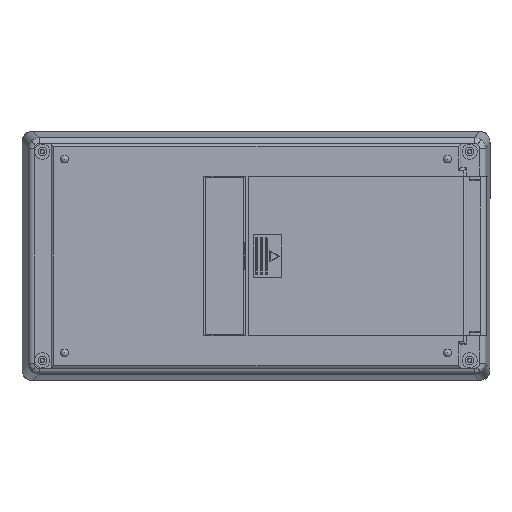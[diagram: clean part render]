
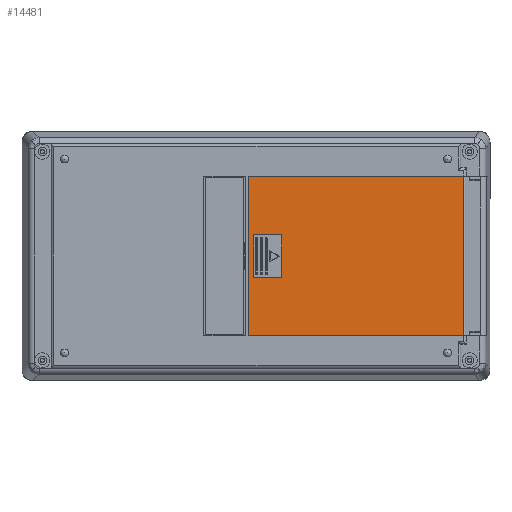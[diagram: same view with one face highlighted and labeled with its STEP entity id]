
A CAD part, front view. The second image highlights one B-rep face of the part: STEP entity #14481.
In plain terms, the highlighted planar face has unit normal (0, -1, 0).
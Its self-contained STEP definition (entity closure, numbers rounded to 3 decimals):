
#66 = LINE ( 'NONE', #12847, #12396 ) ;
#1228 = CARTESIAN_POINT ( 'NONE',  ( 25.2, 0., 32.4 ) ) ;
#2099 = CARTESIAN_POINT ( 'NONE',  ( 38.7, 0., -8.75 ) ) ;
#3200 = VERTEX_POINT ( 'NONE', #28130 ) ;
#3648 = DIRECTION ( 'NONE',  ( 0., 0., 1. ) ) ;
#4795 = ORIENTED_EDGE ( 'NONE', *, *, #11829, .F. ) ;
#5502 = CARTESIAN_POINT ( 'NONE',  ( 38.7, 0., 8.75 ) ) ;
#6868 = AXIS2_PLACEMENT_3D ( 'NONE', #24189, #8181, #24293 ) ;
#7576 = CARTESIAN_POINT ( 'NONE',  ( 112.7, 0., 32.4 ) ) ;
#8119 = VECTOR ( 'NONE', #26833, 1000. ) ;
#8181 = DIRECTION ( 'NONE',  ( 0., 1., 0. ) ) ;
#8979 = CARTESIAN_POINT ( 'NONE',  ( 38.7, 0., -8.75 ) ) ;
#9409 = CARTESIAN_POINT ( 'NONE',  ( 25.2, 0., 32.4 ) ) ;
#9796 = ORIENTED_EDGE ( 'NONE', *, *, #26571, .F. ) ;
#9850 = LINE ( 'NONE', #1228, #21337 ) ;
#11057 = EDGE_CURVE ( 'NONE', #14386, #3200, #14984, .T. ) ;
#11204 = EDGE_CURVE ( 'NONE', #22026, #15420, #22841, .T. ) ;
#11449 = EDGE_CURVE ( 'NONE', #12048, #15558, #16363, .T. ) ;
#11829 = EDGE_CURVE ( 'NONE', #27167, #14386, #66, .T. ) ;
#12048 = VERTEX_POINT ( 'NONE', #12064 ) ;
#12064 = CARTESIAN_POINT ( 'NONE',  ( 25.2, 0., 32.4 ) ) ;
#12119 = CARTESIAN_POINT ( 'NONE',  ( 112.7, 0., -32.4 ) ) ;
#12288 = CARTESIAN_POINT ( 'NONE',  ( 38.7, 0., 8.75 ) ) ;
#12396 = VECTOR ( 'NONE', #3648, 1000. ) ;
#12457 = CARTESIAN_POINT ( 'NONE',  ( 27.2, 0., -8.75 ) ) ;
#12644 = CARTESIAN_POINT ( 'NONE',  ( 25.2, 0., -32.4 ) ) ;
#12847 = CARTESIAN_POINT ( 'NONE',  ( 38.7, 0., 8.75 ) ) ;
#12991 = CARTESIAN_POINT ( 'NONE',  ( 112.7, 0., 32.4 ) ) ;
#13511 = LINE ( 'NONE', #17850, #8119 ) ;
#14386 = VERTEX_POINT ( 'NONE', #12288 ) ;
#14481 = ADVANCED_FACE ( 'NONE', ( #28857, #24881 ), #21938, .F. ) ;
#14984 = LINE ( 'NONE', #5502, #16394 ) ;
#15420 = VERTEX_POINT ( 'NONE', #12119 ) ;
#15538 = EDGE_CURVE ( 'NONE', #15558, #15420, #19019, .T. ) ;
#15558 = VERTEX_POINT ( 'NONE', #12644 ) ;
#15578 = EDGE_LOOP ( 'NONE', ( #21266, #24582, #24295, #17866 ) ) ;
#16158 = DIRECTION ( 'NONE',  ( 0., 0., -1. ) ) ;
#16363 = LINE ( 'NONE', #9409, #28648 ) ;
#16394 = VECTOR ( 'NONE', #21608, 1000. ) ;
#17038 = LINE ( 'NONE', #2099, #20952 ) ;
#17172 = CARTESIAN_POINT ( 'NONE',  ( 25.2, 0., -32.4 ) ) ;
#17850 = CARTESIAN_POINT ( 'NONE',  ( 27.2, 0., 8.75 ) ) ;
#17866 = ORIENTED_EDGE ( 'NONE', *, *, #11449, .T. ) ;
#18294 = VECTOR ( 'NONE', #21778, 1000. ) ;
#18706 = ORIENTED_EDGE ( 'NONE', *, *, #11057, .F. ) ;
#19019 = LINE ( 'NONE', #17172, #18294 ) ;
#19180 = EDGE_LOOP ( 'NONE', ( #18706, #4795, #9796, #20139 ) ) ;
#19741 = VERTEX_POINT ( 'NONE', #12457 ) ;
#20139 = ORIENTED_EDGE ( 'NONE', *, *, #25290, .F. ) ;
#20952 = VECTOR ( 'NONE', #29735, 1000. ) ;
#21266 = ORIENTED_EDGE ( 'NONE', *, *, #15538, .T. ) ;
#21337 = VECTOR ( 'NONE', #21886, 1000. ) ;
#21608 = DIRECTION ( 'NONE',  ( -1., 0., 0. ) ) ;
#21778 = DIRECTION ( 'NONE',  ( 1., 0., 0. ) ) ;
#21886 = DIRECTION ( 'NONE',  ( 1., 0., 0. ) ) ;
#21938 = PLANE ( 'NONE',  #6868 ) ;
#22026 = VERTEX_POINT ( 'NONE', #7576 ) ;
#22841 = LINE ( 'NONE', #12991, #29028 ) ;
#24189 = CARTESIAN_POINT ( 'NONE',  ( 25.2, 0., 32.4 ) ) ;
#24293 = DIRECTION ( 'NONE',  ( 0., 0., 1. ) ) ;
#24295 = ORIENTED_EDGE ( 'NONE', *, *, #26305, .F. ) ;
#24582 = ORIENTED_EDGE ( 'NONE', *, *, #11204, .F. ) ;
#24881 = FACE_OUTER_BOUND ( 'NONE', #15578, .T. ) ;
#25290 = EDGE_CURVE ( 'NONE', #3200, #19741, #13511, .T. ) ;
#26305 = EDGE_CURVE ( 'NONE', #12048, #22026, #9850, .T. ) ;
#26571 = EDGE_CURVE ( 'NONE', #19741, #27167, #17038, .T. ) ;
#26788 = DIRECTION ( 'NONE',  ( 0., 0., -1. ) ) ;
#26833 = DIRECTION ( 'NONE',  ( 0., 0., -1. ) ) ;
#27167 = VERTEX_POINT ( 'NONE', #8979 ) ;
#28130 = CARTESIAN_POINT ( 'NONE',  ( 27.2, 0., 8.75 ) ) ;
#28648 = VECTOR ( 'NONE', #16158, 1000. ) ;
#28857 = FACE_BOUND ( 'NONE', #19180, .T. ) ;
#29028 = VECTOR ( 'NONE', #26788, 1000. ) ;
#29735 = DIRECTION ( 'NONE',  ( 1., 0., 0. ) ) ;
